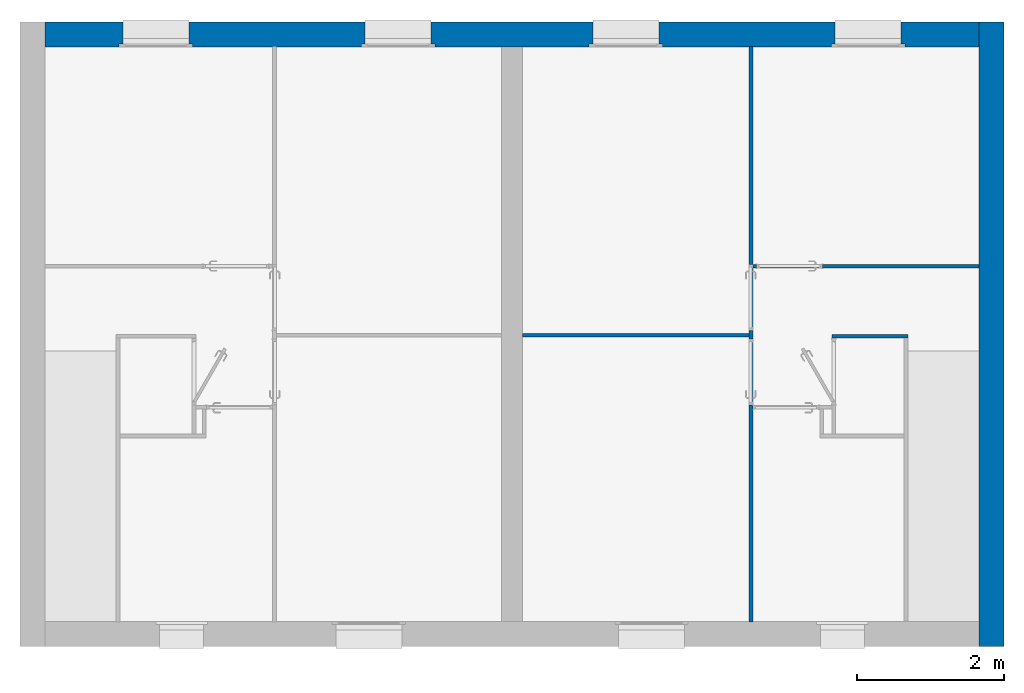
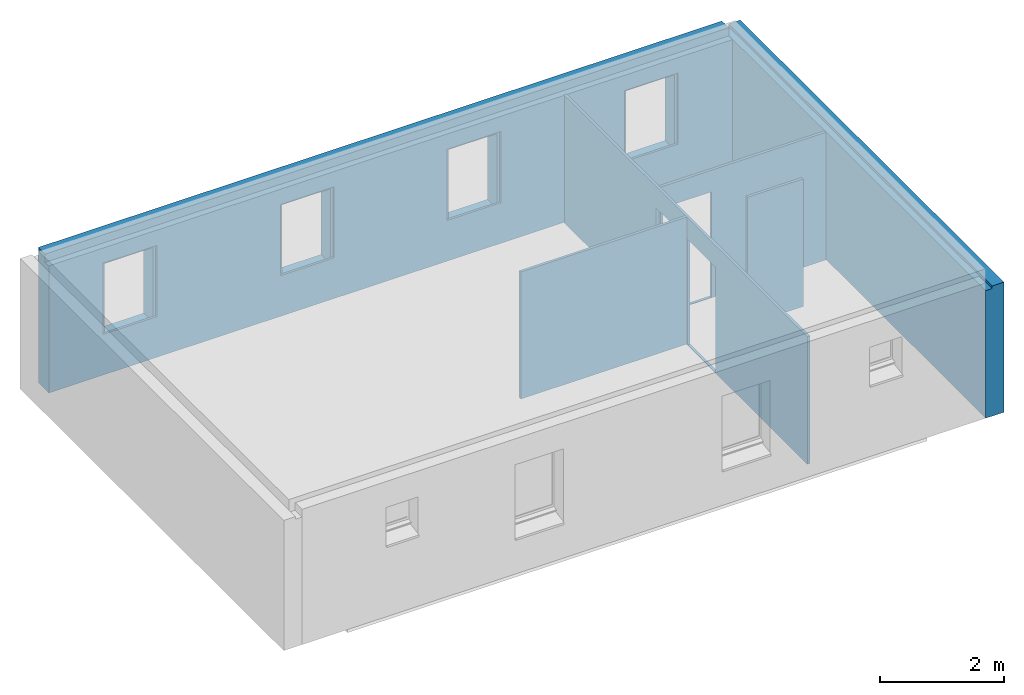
# One storey, part 2 of 14: 6 walls.
"""IFC2X3 building model written with IfcOpenShell, lengths in millimetres."""

from ifc_helpers import new_model, entity, si_unit, converted_unit, direction, frame, origin, origin_with_axes, place, context, project, spatial, faceted_brep, element, save


model = new_model("IFC2X3")

# Units and contexts
model_context = context("Model", 3, precision=1e-05, world=origin(), true_north=direction((0.0, 1.0, 0.0)))
ifc_project = project(units=[si_unit("LENGTHUNIT", "METRE", prefix="MILLI"), si_unit("AREAUNIT", "SQUARE_METRE"), si_unit("VOLUMEUNIT", "CUBIC_METRE"), converted_unit("PLANEANGLEUNIT", "DEGREE", entity("IfcPlaneAngleMeasure", 0.01745), si_unit("PLANEANGLEUNIT", "RADIAN"), dimensions=[0, 0, 0, 0, 0, 0, 0]), si_unit("SOLIDANGLEUNIT", "STERADIAN"), si_unit("MASSUNIT", "GRAM"), si_unit("TIMEUNIT", "SECOND"), si_unit("THERMODYNAMICTEMPERATUREUNIT", "DEGREE_CELSIUS"), si_unit("LUMINOUSINTENSITYUNIT", "LUMEN")], contexts=[model_context])

# Site, building, storey
placement = place(None, origin_with_axes())
site_placement = place(placement, frame((11636.08881703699, 2815.7442167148, 4.768371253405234e-06), z_axis=(0.0, 0.0, 1.0), x_axis=(1.0, 0.0, 0.0)))
site = spatial("IfcSite", under=ifc_project, at=site_placement, Name="Surface", CompositionType="ELEMENT")
building_placement = place(placement, origin_with_axes())
building = spatial("IfcBuilding", under=site, at=building_placement, Name="Default Building", CompositionType="ELEMENT")
storey_placement = place(building_placement, origin_with_axes())
storey = spatial("IfcBuildingStorey", under=building, at=storey_placement, Name="Plan étage", CompositionType="ELEMENT", Elevation=0.0)

# Walls
wall_1_placement = place(storey_placement, frame((11636.08881703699, 2815.7442167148, 4.768371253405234e-06), z_axis=(0.0, 0.0, 1.0), x_axis=(1.0, 0.0, 0.0)))
element("IfcWallStandardCase", 1, at=wall_1_placement, inside=storey, Name="IfcWallStandardCase - Mur de base:Mur de base Ext. Parpaing 20 + Isolant 12", context=model_context, shape_type="Brep", body=[
    faceted_brep([(-6036.088842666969, 5434.255785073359, 3420.576341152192), (-6936.088818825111, 5384.255788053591, 3462.110764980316), (-6036.088842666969, 5384.255788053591, 3462.110764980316), (-6936.088818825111, 5434.255785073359, 3420.576341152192), (-10236.08900955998, 5434.255785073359, 3420.576341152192), (-9336.088914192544, 5384.255788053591, 3462.110764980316), (-9336.088914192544, 5434.255785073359, 3420.576341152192), (-10236.08900955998, 5384.255788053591, 3462.110764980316), (-3836.088794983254, 5434.255785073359, 3420.576341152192), (-2936.088818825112, 5384.255788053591, 3462.110764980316), (-2936.088818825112, 5434.255785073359, 3420.576341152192), (-3836.088794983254, 5384.255788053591, 3462.110764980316), (-536.0887234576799, 5434.255785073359, 3420.576341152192), (363.9113719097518, 5384.255788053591, 3462.110764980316), (363.9113719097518, 5434.255785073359, 3420.576341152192), (-536.0887234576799, 5384.255788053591, 3462.110764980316), (-6936.088818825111, 5384.255788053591, 3540.000028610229), (-6036.088842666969, 5384.255788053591, 3540.000028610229), (-5986.088771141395, 5384.255788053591, 3540.000028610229), (-6036.088842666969, 5384.255788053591, 4889.999992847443), (-6986.088771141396, 5384.255788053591, 3540.000028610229), (-6936.088818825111, 5384.255788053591, 4889.999992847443), (-6986.088771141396, 5384.255788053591, 4940.000004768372), (-5986.088771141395, 5384.255788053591, 4940.000004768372), (-9336.088914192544, 5384.255788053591, 3540.000028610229), (-10236.08900955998, 5384.255788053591, 3540.000028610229), (-9286.08872345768, 5384.255788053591, 3540.000028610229), (-9336.088914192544, 5384.255788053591, 4889.999992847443), (-9286.08872345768, 5384.255788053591, 4940.000004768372), (-10236.08900955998, 5384.255788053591, 4889.999992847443), (-10286.08872345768, 5384.255788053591, 3540.000028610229), (-10286.08872345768, 5384.255788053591, 4940.000004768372), (-2936.088818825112, 5384.255788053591, 3540.000028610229), (-3836.088794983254, 5384.255788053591, 3540.000028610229), (-2886.088866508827, 5384.255788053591, 3540.000028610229), (-2936.088818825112, 5384.255788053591, 4889.999992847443), (-2886.088866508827, 5384.255788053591, 4940.000004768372), (-3836.088794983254, 5384.255788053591, 4889.999992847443), (-3886.088866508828, 5384.255788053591, 3540.000028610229), (-3886.088866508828, 5384.255788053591, 4940.000004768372), (363.9113719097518, 5384.255788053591, 3540.000028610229), (-536.0887234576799, 5384.255788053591, 3540.000028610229), (413.9110858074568, 5384.255788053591, 3540.000028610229), (363.9113719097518, 5384.255788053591, 4889.999992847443), (413.9110858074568, 5384.255788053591, 4940.000004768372), (-536.0887234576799, 5384.255788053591, 4889.999992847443), (-586.0889141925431, 5384.255788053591, 3540.000028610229), (-586.0889141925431, 5384.255788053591, 4940.000004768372), (-6036.088842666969, 5684.255785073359, 4889.999992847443), (-6036.088842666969, 5684.255785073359, 3420.576341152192), (-6936.088818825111, 5684.255785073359, 4889.999992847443), (-6936.088818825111, 5684.255785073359, 3420.576341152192), (-10236.08900955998, 5684.255785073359, 3420.576341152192), (-10236.08900955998, 5684.255785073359, 4889.999992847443), (-9336.088914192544, 5684.255785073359, 3420.576341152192), (-9336.088914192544, 5684.255785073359, 4889.999992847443), (-3836.088794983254, 5684.255785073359, 4889.999992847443), (-2936.088818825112, 5684.255785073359, 4889.999992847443), (-3836.088794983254, 5684.255785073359, 3420.576341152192), (-2936.088818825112, 5684.255785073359, 3420.576341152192), (-536.0887234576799, 5684.255785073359, 3420.576341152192), (-536.0887234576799, 5684.255785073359, 4889.999992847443), (363.9113719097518, 5684.255785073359, 3420.576341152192), (363.9113719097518, 5684.255785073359, 4889.999992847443), (-6986.088771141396, 5344.255781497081, 3540.000028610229), (-6986.088771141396, 5344.255781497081, 4940.000004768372), (-5986.088771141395, 5344.255781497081, 4940.000004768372), (-5986.088771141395, 5344.255781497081, 3540.000028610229), (-6036.088842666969, 5344.255781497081, 3540.000028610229), (-6936.088818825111, 5344.255781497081, 3540.000028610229), (-9286.08872345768, 5344.255781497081, 3540.000028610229), (-9286.08872345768, 5344.255781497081, 4940.000004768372), (-9336.088914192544, 5344.255781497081, 3540.000028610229), (-10236.08900955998, 5344.255781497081, 3540.000028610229), (-10286.08872345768, 5344.255781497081, 3540.000028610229), (-10286.08872345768, 5344.255781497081, 4940.000004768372), (-2886.088866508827, 5344.255781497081, 4940.000004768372), (-3886.088866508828, 5344.255781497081, 4940.000004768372), (-2886.088866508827, 5344.255781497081, 3540.000028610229), (-3886.088866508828, 5344.255781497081, 3540.000028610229), (-2936.088818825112, 5344.255781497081, 3540.000028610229), (-3836.088794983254, 5344.255781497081, 3540.000028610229), (413.9110858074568, 5344.255781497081, 3540.000028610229), (363.9113719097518, 5344.255781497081, 3540.000028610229), (-536.0887234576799, 5344.255781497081, 3540.000028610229), (-586.0889141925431, 5344.255781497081, 3540.000028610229), (-586.0889141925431, 5344.255781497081, 4940.000004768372), (413.9110858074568, 5344.255781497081, 4940.000004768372), (-11296.08895233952, 5684.255785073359, 5400.000042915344), (-11296.08895233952, 5464.255782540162, 5239.999957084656), (-11296.08895233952, 5464.255782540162, 5400.000042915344), (-11296.08895233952, 5684.255785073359, 2739.999957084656), (-11296.08895233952, 5344.255781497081, 5239.999957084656), (-11296.08895233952, 5344.255781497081, 2739.999957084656), (1423.911314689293, 5684.255785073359, 2739.999957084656), (1423.911314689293, 5684.255785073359, 5400.000042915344), (1423.911314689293, 5464.255782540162, 5400.000042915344), (1423.911314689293, 5464.255782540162, 5239.999957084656), (-4796.088818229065, 5344.255781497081, 5239.999957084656), (1423.911314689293, 5344.255781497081, 5239.999957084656), (-5076.088819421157, 5344.255781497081, 5239.999957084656), (1423.911314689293, 5344.255781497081, 2739.999957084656)], [[[0, 1, 2]], [[0, 3, 1]], [[4, 5, 6]], [[4, 7, 5]], [[8, 9, 10]], [[8, 11, 9]], [[12, 13, 14]], [[12, 15, 13]], [[2, 16, 17]], [[2, 1, 16]], [[17, 18, 19]], [[20, 21, 22]], [[21, 20, 16]], [[19, 22, 21]], [[19, 23, 22]], [[23, 19, 18]], [[7, 24, 5]], [[7, 25, 24]], [[26, 27, 24]], [[27, 28, 29]], [[28, 27, 26]], [[29, 30, 25]], [[29, 31, 30]], [[31, 29, 28]], [[11, 32, 9]], [[11, 33, 32]], [[34, 35, 32]], [[35, 36, 37]], [[36, 35, 34]], [[37, 38, 33]], [[37, 39, 38]], [[39, 37, 36]], [[15, 40, 13]], [[15, 41, 40]], [[42, 43, 40]], [[43, 44, 45]], [[44, 43, 42]], [[45, 46, 41]], [[45, 47, 46]], [[47, 45, 44]], [[48, 17, 19]], [[48, 2, 17]], [[48, 0, 2]], [[0, 48, 49]], [[48, 21, 50]], [[48, 19, 21]], [[16, 50, 21]], [[1, 50, 16]], [[3, 50, 1]], [[50, 3, 51]], [[51, 0, 49]], [[51, 3, 0]], [[52, 7, 4]], [[52, 25, 7]], [[53, 25, 52]], [[25, 53, 29]], [[52, 6, 54]], [[52, 4, 6]], [[53, 27, 29]], [[53, 55, 27]], [[24, 6, 5]], [[27, 6, 24]], [[55, 6, 27]], [[6, 55, 54]], [[56, 35, 37]], [[56, 57, 35]], [[58, 11, 8]], [[58, 33, 11]], [[56, 33, 58]], [[33, 56, 37]], [[32, 10, 9]], [[35, 10, 32]], [[57, 10, 35]], [[10, 57, 59]], [[58, 10, 59]], [[58, 8, 10]], [[60, 15, 12]], [[60, 41, 15]], [[61, 41, 60]], [[41, 61, 45]], [[60, 14, 62]], [[60, 12, 14]], [[61, 43, 45]], [[61, 63, 43]], [[40, 14, 13]], [[43, 14, 40]], [[63, 14, 43]], [[14, 63, 62]], [[64, 22, 65]], [[64, 20, 22]], [[65, 23, 66]], [[65, 22, 23]], [[67, 23, 18]], [[67, 66, 23]], [[18, 68, 67]], [[17, 68, 18]], [[16, 68, 17]], [[16, 69, 68]], [[20, 69, 16]], [[69, 20, 64]], [[70, 28, 26]], [[70, 71, 28]], [[26, 72, 70]], [[24, 72, 26]], [[25, 72, 24]], [[25, 73, 72]], [[30, 73, 25]], [[73, 30, 74]], [[71, 31, 28]], [[71, 75, 31]], [[74, 31, 75]], [[74, 30, 31]], [[76, 39, 36]], [[76, 77, 39]], [[78, 36, 34]], [[78, 76, 36]], [[79, 39, 77]], [[79, 38, 39]], [[34, 80, 78]], [[32, 80, 34]], [[33, 80, 32]], [[33, 81, 80]], [[38, 81, 33]], [[81, 38, 79]], [[40, 82, 42]], [[40, 83, 82]], [[41, 83, 40]], [[41, 84, 83]], [[46, 84, 41]], [[84, 46, 85]], [[85, 47, 86]], [[85, 46, 47]], [[82, 44, 42]], [[82, 87, 44]], [[87, 47, 44]], [[87, 86, 47]], [[88, 89, 90]], [[91, 89, 88]], [[91, 92, 89]], [[92, 91, 93]], [[94, 62, 95]], [[94, 60, 62]], [[94, 59, 60]], [[94, 58, 59]], [[58, 49, 56]], [[94, 49, 58]], [[94, 51, 49]], [[51, 54, 50]], [[94, 54, 51]], [[94, 52, 54]], [[52, 94, 91]], [[63, 95, 62]], [[61, 95, 63]], [[59, 61, 60]], [[57, 61, 59]], [[57, 95, 61]], [[56, 95, 57]], [[48, 56, 49]], [[48, 95, 56]], [[50, 95, 48]], [[55, 50, 54]], [[55, 95, 50]], [[53, 95, 55]], [[91, 53, 52]], [[53, 88, 95]], [[88, 53, 91]], [[95, 90, 96]], [[95, 88, 90]], [[97, 90, 89]], [[97, 96, 90]], [[97, 98, 99]], [[97, 100, 98]], [[89, 100, 97]], [[100, 89, 92]], [[92, 86, 87]], [[92, 76, 86]], [[92, 77, 76]], [[92, 66, 77]], [[92, 65, 66]], [[92, 71, 65]], [[92, 75, 71]], [[92, 74, 75]], [[74, 101, 73]], [[74, 93, 101]], [[93, 74, 92]], [[87, 98, 92]], [[87, 99, 98]], [[82, 99, 87]], [[82, 101, 99]], [[84, 101, 82]], [[101, 84, 73]], [[76, 85, 86]], [[78, 85, 76]], [[66, 79, 77]], [[67, 79, 66]], [[71, 64, 65]], [[70, 64, 71]], [[101, 91, 94]], [[101, 93, 91]], [[99, 101, 97]], [[97, 95, 96]], [[101, 95, 97]], [[95, 101, 94]]]),
])
wall_2_placement = place(storey_placement, frame((11636.08881703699, 2815.7442167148, 4.768371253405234e-06), z_axis=(0.0, 0.0, 1.0), x_axis=(1.0, 0.0, 0.0)))
element("IfcWallStandardCase", 2, at=wall_2_placement, inside=storey, Name="IfcWallStandardCase - Mur de base:Int. plâtre 50 mm", context=model_context, shape_type="Brep", body=[
    faceted_brep([(-1706.088861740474, 1444.255783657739, 5240.0), (-4796.088775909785, 1394.255782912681, 5240.0), (-1706.088861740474, 1394.255782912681, 5240.0), (-4796.088775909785, 1444.255783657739, 5240.0), (-1706.088861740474, 1394.255782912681, 2740.0), (-4796.088775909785, 1444.255783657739, 2740.0), (-1706.088861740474, 1444.255783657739, 2740.0), (-4796.088775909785, 1394.255782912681, 2740.0)], [[[0, 1, 2]], [[0, 3, 1]], [[4, 5, 6]], [[4, 7, 5]], [[3, 6, 5]], [[3, 0, 6]], [[1, 5, 7]], [[1, 3, 5]], [[2, 7, 4]], [[2, 1, 7]], [[0, 4, 6]], [[0, 2, 4]]]),
])
wall_3_placement = place(storey_placement, frame((11636.08881703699, 2815.7442167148, 4.768371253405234e-06), z_axis=(0.0, 0.0, 1.0), x_axis=(1.0, 0.0, 0.0)))
element("IfcWallStandardCase", 3, at=wall_3_placement, inside=storey, Name="IfcWallStandardCase - Mur de base:Int. plâtre 50 mm", context=model_context, shape_type="Brep", body=[
    faceted_brep([(453.9111644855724, 1434.255783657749, 5239.999995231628), (-581.0888021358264, 1384.255782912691, 5239.999995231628), (453.9111644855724, 1384.255782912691, 5239.999995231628), (-581.0888021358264, 1434.255783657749, 5239.999995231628), (453.9111644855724, 1384.255782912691, 2730.000004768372), (-581.0888021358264, 1434.255783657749, 2730.000004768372), (453.9111644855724, 1434.255783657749, 2730.000004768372), (-581.0888021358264, 1384.255782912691, 2730.000004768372)], [[[0, 1, 2]], [[0, 3, 1]], [[4, 5, 6]], [[4, 7, 5]], [[3, 6, 5]], [[3, 0, 6]], [[1, 5, 7]], [[1, 3, 5]], [[2, 7, 4]], [[2, 1, 7]], [[0, 4, 6]], [[0, 2, 4]]]),
])
wall_4_placement = place(storey_placement, frame((11636.08881703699, 2815.7442167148, 4.768371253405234e-06), z_axis=(0.0, 0.0, 1.0), x_axis=(1.0, 0.0, 0.0)))
element("IfcWallStandardCase", 4, at=wall_4_placement, inside=storey, Name="IfcWallStandardCase - Mur de base:Int. plâtre 50 mm", context=model_context, shape_type="Brep", body=[
    faceted_brep([(-706.0887925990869, 2334.25578291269, 2739.999995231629), (-706.0887925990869, 2384.255783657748, 4814.999983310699), (-706.0887925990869, 2384.255783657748, 2739.999995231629), (-706.0887925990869, 2334.25578291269, 4814.999983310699), (-1606.088828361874, 2384.255783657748, 4814.999983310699), (-1606.088828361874, 2334.25578291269, 4814.999983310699), (-1606.088828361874, 2384.255783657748, 2739.999995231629), (-1606.088828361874, 2334.25578291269, 2739.999995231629), (-1656.088780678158, 2334.25578291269, 5239.999995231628), (-1656.088780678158, 2384.255783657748, 2730.000004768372), (-1656.088780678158, 2334.25578291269, 2730.000004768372), (-1656.088780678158, 2384.255783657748, 5239.999995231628), (1423.911143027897, 2384.255783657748, 5239.999995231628), (1423.911143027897, 2334.25578291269, 5239.999995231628), (1423.911143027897, 2334.25578291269, 2730.000004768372), (1423.911143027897, 2384.255783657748, 2730.000004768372)], [[[0, 1, 2]], [[0, 3, 1]], [[3, 4, 1]], [[3, 5, 4]], [[5, 6, 4]], [[5, 7, 6]], [[7, 2, 6]], [[7, 0, 2]], [[8, 9, 10]], [[8, 11, 9]], [[12, 8, 13]], [[12, 11, 8]], [[14, 9, 15]], [[14, 10, 9]], [[10, 7, 8]], [[10, 0, 7]], [[0, 14, 3]], [[14, 0, 10]], [[5, 8, 7]], [[3, 8, 5]], [[3, 13, 8]], [[13, 3, 14]], [[15, 2, 12]], [[15, 6, 2]], [[6, 9, 4]], [[9, 6, 15]], [[1, 12, 2]], [[4, 12, 1]], [[4, 11, 12]], [[11, 4, 9]], [[12, 14, 15]], [[12, 13, 14]]]),
])
wall_5_placement = place(storey_placement, frame((11636.08881703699, 2815.7442167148, 4.768371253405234e-06), z_axis=(0.0, 0.0, 1.0), x_axis=(1.0, 0.0, 0.0)))
element("IfcWallStandardCase", 5, at=wall_5_placement, inside=storey, Name="IfcWallStandardCase - Mur de base:Int. plâtre 50 mm", context=model_context, shape_type="Brep", body=[
    faceted_brep([(-1656.088818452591, 1484.255784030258, 4814.999983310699), (-1706.088819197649, 1484.255784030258, 2739.999995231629), (-1706.088819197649, 1484.255784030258, 4814.999983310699), (-1656.088818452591, 1484.255784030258, 2739.999995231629), (-1656.088818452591, 2384.255771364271, 4814.999983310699), (-1706.088819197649, 2384.255771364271, 4814.999983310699), (-1706.088819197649, 2384.255771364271, 2739.999995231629), (-1656.088818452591, 2384.255771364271, 2739.999995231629), (-1656.088818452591, 1371.7557832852, 4814.999983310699), (-1706.088819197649, 471.755807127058, 4814.999983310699), (-1706.088819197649, 1371.7557832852, 4814.999983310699), (-1656.088818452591, 471.755807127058, 4814.999983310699), (-1656.088818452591, 1371.7557832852, 2739.999995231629), (-1706.088819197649, 1371.7557832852, 2739.999995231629), (-1656.088818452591, 471.755807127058, 2739.999995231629), (-1706.088819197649, 471.755807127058, 2739.999995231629), (-1706.088819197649, 5354.255859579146, 5239.999995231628), (-1656.088818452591, 5354.255859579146, 2730.000004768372), (-1706.088819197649, 5354.255859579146, 2730.000004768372), (-1656.088818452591, 5354.255859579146, 5239.999995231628), (-1656.088818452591, -2485.744293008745, 5239.999995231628), (-1706.088819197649, -2485.744293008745, 5239.999995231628), (-1706.088819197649, -2485.744293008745, 2730.000004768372), (-1656.088818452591, -2485.744293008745, 2730.000004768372)], [[[0, 1, 2]], [[0, 3, 1]], [[4, 2, 5]], [[4, 0, 2]], [[3, 6, 1]], [[3, 7, 6]], [[7, 5, 6]], [[7, 4, 5]], [[8, 9, 10]], [[8, 11, 9]], [[12, 10, 13]], [[12, 8, 10]], [[14, 13, 15]], [[14, 12, 13]], [[11, 15, 9]], [[11, 14, 15]], [[16, 17, 18]], [[16, 19, 17]], [[20, 16, 21]], [[20, 19, 16]], [[22, 17, 23]], [[22, 18, 17]], [[18, 6, 16]], [[18, 1, 6]], [[1, 13, 2]], [[18, 13, 1]], [[18, 15, 13]], [[15, 22, 9]], [[22, 15, 18]], [[5, 16, 6]], [[2, 16, 5]], [[10, 2, 13]], [[10, 16, 2]], [[9, 16, 10]], [[9, 21, 16]], [[21, 9, 22]], [[23, 14, 20]], [[23, 12, 14]], [[12, 3, 8]], [[23, 3, 12]], [[23, 7, 3]], [[7, 17, 4]], [[17, 7, 23]], [[11, 20, 14]], [[8, 20, 11]], [[0, 8, 3]], [[0, 20, 8]], [[4, 20, 0]], [[4, 19, 20]], [[19, 4, 17]], [[20, 22, 23]], [[20, 21, 22]]]),
])
wall_6_placement = place(storey_placement, frame((11636.08881703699, 2815.7442167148, 4.768371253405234e-06), z_axis=(0.0, 0.0, 1.0), x_axis=(1.0, 0.0, 0.0)))
element("IfcWallStandardCase", 6, at=wall_6_placement, inside=storey, Name="IfcWallStandardCase - Mur de base:Mur de base Ext. Parpaing 20 + Isolant 12", context=model_context, shape_type="Brep", body=[
    faceted_brep([(1763.911182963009, 5684.255783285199, 5299.999971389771), (1543.911180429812, 5684.255783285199, 5250.000019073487), (1543.911180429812, 5684.255783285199, 5299.999971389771), (1763.911182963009, 5684.255783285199, 2740.000028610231), (1423.911179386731, 5684.255783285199, 5250.000019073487), (1423.911179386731, 5684.255783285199, 2740.000028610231), (1763.911182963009, -2815.7442167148, 2740.000028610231), (1763.911182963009, -2815.7442167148, 5299.999971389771), (1543.911180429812, -2815.7442167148, 5299.999971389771), (1543.911180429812, -2815.7442167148, 5250.000019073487), (1423.911179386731, -2815.7442167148, 5250.000019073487), (1423.911179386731, -2815.7442167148, 2740.000028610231)], [[[0, 1, 2]], [[3, 1, 0]], [[3, 4, 1]], [[4, 3, 5]], [[0, 6, 3]], [[0, 7, 6]], [[7, 2, 8]], [[7, 0, 2]], [[9, 2, 1]], [[9, 8, 2]], [[4, 9, 1]], [[4, 10, 9]], [[11, 4, 5]], [[11, 10, 4]], [[11, 3, 6]], [[11, 5, 3]], [[10, 11, 9]], [[9, 7, 8]], [[11, 7, 9]], [[7, 11, 6]]]),
])

save(model, "model.ifc")
